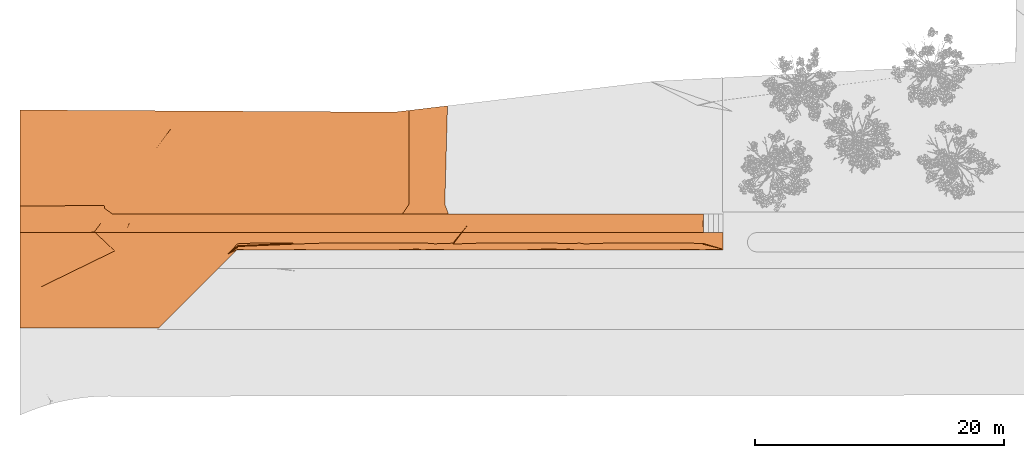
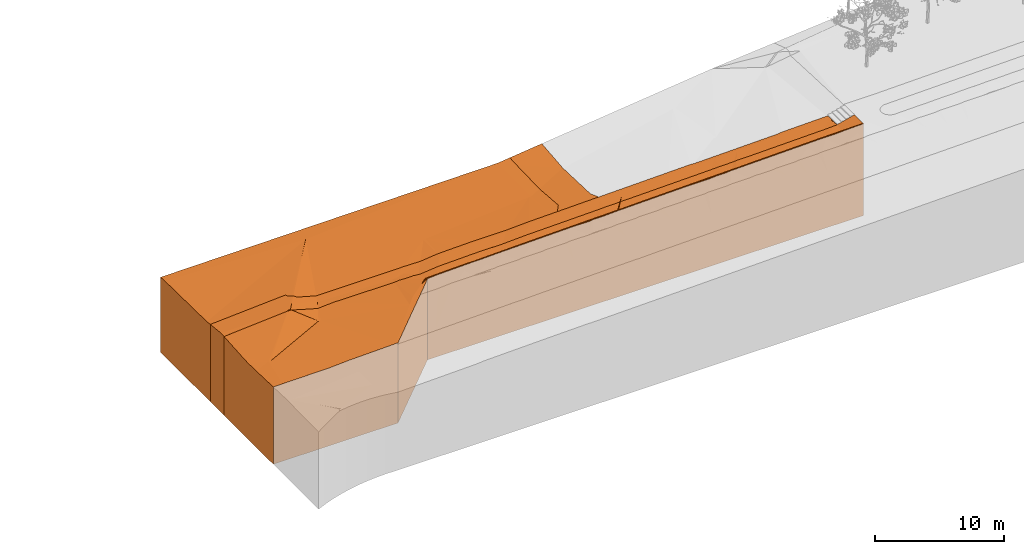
# One storey, part 208 of 246: 4 proxies.
"""IFC2X3 building model written with IfcOpenShell, lengths in millimetres."""

from ifc_helpers import new_model, entity, si_unit, converted_unit, derived_unit, money_unit, direction, frame, origin_with_axes, place, context, subcontext, project, spatial, faceted_brep, material, type_object, element, save


model = new_model("IFC2X3")

# Units and contexts
model_context = context("Model", 3, precision=0.01, world=origin_with_axes(), true_north=direction((0.0, 1.0)))
body_context = subcontext(model_context, "Body", "Model", "MODEL_VIEW")
ifc_project = project(units=[si_unit("LENGTHUNIT", "METRE", prefix="MILLI"), si_unit("AREAUNIT", "SQUARE_METRE"), si_unit("VOLUMEUNIT", "CUBIC_METRE"), converted_unit("PLANEANGLEUNIT", "DEGREE", entity("IfcPlaneAngleMeasure", 0.0174532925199), si_unit("PLANEANGLEUNIT", "RADIAN"), dimensions=[0, 0, 0, 0, 0, 0, 0]), si_unit("SOLIDANGLEUNIT", "STERADIAN"), money_unit("EUR"), converted_unit("TIMEUNIT", "Year", entity("IfcTimeMeasure", 31556926.0), si_unit("TIMEUNIT", "SECOND"), dimensions=[0, 0, 1, 0, 0, 0, 0]), si_unit("MASSUNIT", "GRAM", prefix="KILO"), si_unit("THERMODYNAMICTEMPERATUREUNIT", "DEGREE_CELSIUS"), si_unit("LUMINOUSINTENSITYUNIT", "LUMEN"), si_unit("ENERGYUNIT", "JOULE", prefix="MEGA"), derived_unit("THERMALCONDUCTANCEUNIT", [(si_unit("POWERUNIT", "WATT"), 1), (si_unit("LENGTHUNIT", "METRE"), -1), (si_unit("THERMODYNAMICTEMPERATUREUNIT", "KELVIN"), -1)]), derived_unit("SPECIFICHEATCAPACITYUNIT", [(si_unit("ENERGYUNIT", "JOULE"), 1), (si_unit("MASSUNIT", "GRAM", prefix="KILO"), -1), (si_unit("THERMODYNAMICTEMPERATUREUNIT", "KELVIN"), -1)]), derived_unit("MASSDENSITYUNIT", [(si_unit("MASSUNIT", "GRAM", prefix="KILO"), 1), (si_unit("VOLUMEUNIT", "CUBIC_METRE"), -1)])], contexts=[model_context])

# Site, building, storey
site_placement = place(None, origin_with_axes())
site = spatial("IfcSite", under=ifc_project, at=site_placement, Name="L.Koidula tn 11b", CompositionType="ELEMENT")
building_placement = place(site_placement, origin_with_axes())
building = spatial("IfcBuilding", under=site, at=building_placement, Name="Rakvere Riigigümnaasium", CompositionType="ELEMENT")
storey_placement = place(building_placement, origin_with_axes())
storey = spatial("IfcBuildingStorey", under=building, at=storey_placement, Name="1.korrus 0,00", CompositionType="ELEMENT", Elevation=0.0)

# Proxies
ifc_material_1 = material(Name="Roheala")
building_element_proxy_type_1 = type_object("IfcBuildingElementProxyType", Name="Roheala", PredefinedType="NOTDEFINED")
proxy_1_placement = place(storey_placement, frame((-84326.166976, -3413.61736413, -10000.0), z_axis=(0.0, 0.0, 1.0), x_axis=(1.0, 0.0, 0.0)))
element("IfcBuildingElementProxy", 1, at=proxy_1_placement, inside=storey, type_object=building_element_proxy_type_1, material=ifc_material_1, Name="Roheala", context=body_context, shape_type="Brep", body=[
    faceted_brep([(56500.0797185, 6317.00748216, 8700.0), (56500.0817769, 6250.04091103, 8697.94951544), (56500.0817769, 6250.04091103, 0.0), (56500.0387458, 7649.98054143, 0.0), (56500.0387458, 7649.98054143, 8700.0), (56478.1325653, 6320.76040749, 8700.0), (56458.6437579, 6250.04197288, 8697.73258207), (17466.8236033, 6251.04113707, 7697.11235292), (17429.7311562, 6251.04208756, 7695.38095773), (17429.7311562, 6251.04208756, 0.0), (55826.1157257, 6250.05818139, 8679.17993428), (54912.2976461, 6250.08159795, 8650.0), (54831.2643912, 6250.08367443, 8650.0), (54337.5972467, 6250.09632463, 8618.14781877), (54009.9535934, 6250.10472049, 8600.0), (52787.3374331, 6250.13604999, 8600.0), (50743.4104742, 6250.18842556, 8550.0), (48699.4835153, 6250.24080112, 8500.0), (46655.5565581, 6250.29317669, 8450.0), (44611.6295991, 6250.34555225, 8400.0), (44608.5002187, 6250.34563244, 8399.62782355), (44606.6054815, 6250.345681, 8399.66785781), (44596.2634037, 6250.34594601, 8399.62410116), (44120.9288745, 6250.35812644, 8350.0), (43324.1563461, 6250.37854372, 8350.0), (42567.702641, 6250.39792782, 8302.85971956), (42516.7696388, 6250.39923298, 8300.0), (40523.7756832, 6250.45030338, 8300.0), (38479.8487235, 6250.50267895, 8250.0), (36435.9217654, 6250.55505451, 8200.0), (34391.9948066, 6250.60743008, 8150.0), (34388.865498, 6250.60751027, 8149.62730361), (34376.6071446, 6250.60782439, 8149.62357603), (34373.5296047, 6250.60790325, 8149.54829105), (33360.7974687, 6250.63385448, 8100.0), (32303.8581786, 6250.66093852, 8100.0), (32300.6245355, 6250.66102138, 8099.63192416), (32288.0033239, 6250.6613448, 8099.6282996), (32284.1476479, 6250.6614436, 8099.53790733), (31969.4123126, 6250.66950868, 8050.0), (30171.1116485, 6250.71559008, 8050.0), (30167.9665271, 6250.71567067, 8049.64132503), (30155.6617386, 6250.71598598, 8049.63779311), (28038.3651183, 6250.77024164, 8000.0), (25905.6185882, 6250.82489321, 7950.0), (23772.8720572, 6250.87954477, 7900.0), (23744.4073136, 6250.88027418, 7899.33267402), (22271.577892, 6250.91801539, 7850.0), (21748.6613639, 6250.93141511, 7850.0), (19984.9458318, 6250.97661027, 7800.0), (18221.2302997, 6251.02180542, 7750.0), (18205.914837, 6251.02219788, 7749.13163646), (11179.5277611, 0.0, 0.0), (0.00700998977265, 0.155381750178, 0.0), (0.00701060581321, 7650.44658902, 0.0), (56478.1325653, 7649.98072213, 8700.0), (0.00701060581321, 7650.44658902, 7471.24544122), (5717.81441828, 7650.39942497, 7890.34617291), (5720.7397981, 7650.39940084, 7890.34616932), (5857.79912661, 7650.39827029, 7868.84178494), (6049.37965911, 7650.39669001, 7868.84102584), (6867.16398391, 7650.38994441, 7621.13628087), (8393.10873574, 7650.37735747, 7190.01175819), (8460.48670956, 7650.37680169, 7190.01174689), (9751.72676031, 7650.36615074, 7280.11628937), (15285.0023761, 7650.32050882, 7261.56624853), (15364.5959855, 7650.31985228, 7273.63875858), (15677.4722953, 7650.31727148, 7307.20652489), (15833.2881491, 7650.31598621, 7307.20677894), (16262.5508682, 7650.31244539, 7277.22311575), (16984.746884, 7650.30648826, 7296.44372275), (17491.822994, 7650.30230558, 7232.67987534), (17626.3861301, 7650.30119562, 7233.76140313), (19168.2006535, 7650.28847777, 7400.0), (20930.3955371, 7650.27394209, 7450.0), (21909.6445175, 7650.26586463, 7477.78491633), (22105.7113619, 7650.26424735, 7483.34453777), (22106.3312285, 7650.26424223, 7483.34454432), (22782.7467254, 7650.25866274, 7500.0), (24915.0392728, 7650.24107425, 7500.0), (27047.3319318, 7650.22348577, 7600.0), (29179.6245908, 7650.20589729, 7650.0), (31311.9172495, 7650.1883088, 7700.0), (33283.1128002, 7650.17204915, 7746.2224452), (33283.4443232, 7650.17204642, 7746.22244504), (33441.1173846, 7650.17074583, 7750.0), (33441.1280702, 7650.17074574, 7750.0), (34110.8625793, 7650.16522135, 7776.9448479), (34560.4068977, 7650.16151323, 7777.3801395), (35485.0892181, 7650.15388587, 7800.0), (35527.1473047, 7650.15353895, 7821.40800917), (36402.0767674, 7650.14632199, 7822.43162866), (37529.0503666, 7650.137026, 7850.0), (39573.011515, 7650.12016613, 7900.0), (41616.9726631, 7650.10330626, 7950.0), (43660.9338114, 7650.08644639, 8000.0), (44210.8561113, 7650.08191029, 8022.99835434), (44381.8062684, 7650.08050019, 8023.19120753), (44520.8384745, 7650.07935336, 8029.00567639), (44563.727156, 7650.07899959, 8029.04378938), (44986.3343059, 7650.07551366, 8032.42235049), (45704.8949594, 7650.06958652, 8050.0), (45937.958958, 7650.06766407, 8078.44772623), (46902.8684417, 7650.05970489, 8079.30519212), (47748.8561077, 7650.05272666, 8100.0), (49792.8172557, 7650.03586679, 8150.0), (51836.7784041, 7650.01900692, 8200.0), (53880.739552, 7650.00214705, 8250.0), (54912.3356767, 7649.9936378, 8300.0), (17492.6241828, 6302.11504705, 7700.0), (16694.0332782, 5916.08713761, 7650.0), (16859.9151238, 5681.14959353, 7650.0), (11318.438712, 138.929590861, 7607.10621375), (11179.5277611, 0.0, 7606.73477274), (14500.4139706, 3321.3318274, 7650.0), (54912.298042, 6264.65393075, 8650.0), (54822.0578683, 6261.34511116, 8650.0), (54010.1625335, 6306.57541558, 8600.0), (52778.1283339, 6261.40063814, 8600.0), (50734.1987994, 6261.45616418, 8550.0), (48690.2692649, 6261.51169022, 8500.0), (46646.3397306, 6261.56721812, 8450.0), (44602.410196, 6261.62274416, 8400.0), (44136.5494369, 6319.5410362, 8350.0), (43469.4826486, 6295.08181776, 8350.0), (42558.4806615, 6261.67827113, 8300.0), (42605.4926404, 6338.40197562, 8300.0), (40514.5511273, 6261.7337981, 8300.0), (38470.6215927, 6261.78932321, 8250.0), (36426.6920583, 6261.84485018, 8200.0), (34382.7625239, 6261.90037621, 8150.0), (33360.7987943, 6299.4281416, 8100.0), (33360.7797479, 6299.42813956, 8100.0), (33360.5911623, 6299.42813331, 8100.0), (32294.3433394, 6261.81304114, 8100.0), (32019.1729403, 6327.10586345, 8050.0), (30161.8398254, 6261.58285969, 8050.0), (28029.3363113, 6261.35267825, 8000.0), (25896.8327973, 6261.1224968, 7950.0), (23764.3292831, 6260.89231442, 7900.0), (22271.5744041, 6283.23118742, 7850.0), (22270.8339085, 6283.23092621, 7850.0), (21741.9641584, 6260.41663024, 7850.0), (19979.0202612, 6259.3689633, 7800.0), (18216.0763638, 6258.32129636, 7750.0), (843.32714781, 0.143660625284, 7340.76924749), (0.00700998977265, 0.155381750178, 7323.22837841), (11073.7396539, 0.00147032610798, 7603.80837747), (10936.0682161, 0.00338379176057, 7601.95352976), (10715.6700166, 0.00644705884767, 7588.85682927), (7190.69828465, 0.0554398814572, 7491.28518069), (7185.57192525, 0.0555111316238, 7491.28517686), (6915.063387, 0.0592708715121, 7487.73402215), (5025.96705524, 0.085527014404, 7379.36634196), (924.774832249, 0.142528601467, 7340.76928226), (0.00223881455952, 4628.6643594, 7236.44765782), (0.00425651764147, 2671.29401658, 7230.44220109), (0.00291754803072, 3970.22616115, 7206.20710351), (1477.36434636, 3280.74573074, 7240.0), (1677.36434636, 3280.74573074, 7240.0), (7610.41507392, 6174.73788932, 7160.0), (7810.41507392, 6174.73788932, 7160.0), (14500.0785863, 3945.91806659, 7650.0), (15219.0613136, 4741.94411421, 7650.0), (17492.3567608, 6752.11496814, 7400.0), (18568.3176449, 6798.52960016, 7400.0), (20331.2610414, 6799.57726649, 7450.0), (22094.204438, 6800.62493281, 7500.0), (22270.376203, 7050.76698901, 7500.0), (22271.4915568, 7050.76740414, 7500.0), (17492.4459015, 6602.11499506, 7500.0), (17492.4904718, 6527.11500759, 7500.0), (22270.5653725, 6733.23084691, 7500.0), (22271.5258315, 6733.23118485, 7500.0), (24190.7400937, 6800.93722494, 7500.0), (26323.2438707, 6801.16740561, 7600.0), (28455.747648, 6801.39758814, 7650.0), (30588.2514249, 6801.62776975, 7700.0), (32720.7552021, 6801.85795134, 7750.0), (33360.4578784, 7551.96433771, 7749.99999999), (33360.8328217, 7551.96432987, 7750.0), (33965.5925587, 6771.60355607, 7800.0), (34791.5326191, 6801.88815315, 7800.0), (34829.5825667, 6728.28339822, 7850.0), (36835.4621526, 6801.83262622, 7850.0), (38879.3916865, 6801.77710021, 7900.0), (40923.3212201, 6801.72157328, 7950.0), (42967.2507537, 6801.66604635, 8000.0), (44136.5616619, 6769.54103563, 8050.0), (44506.272442, 6783.0971549, 8050.0), (45172.2790619, 6998.64500901, 8050.0), (45011.1802874, 6801.61052035, 8050.0), (45370.2624504, 6739.77699703, 8100.0), (47055.1098211, 6801.55499435, 8100.0), (49099.0393548, 6801.49946741, 8150.0), (51142.9688885, 6801.44394048, 8200.0), (53186.8984222, 6801.38841447, 8250.0), (17492.5796126, 6377.11503545, 7650.0), (17492.5350422, 6452.11502106, 7600.0), (54912.3102668, 6714.65393205, 8350.0), (54912.3082293, 6639.65393199, 8400.0), (54912.3061917, 6564.65393193, 8450.0), (54912.3041543, 6489.65393187, 8500.0), (54912.3021168, 6414.65393181, 8550.0), (54912.3000794, 6339.65393081, 8600.0), (48826.2224835, 6566.49636464, 8300.0), (33360.8008318, 6374.42813979, 8049.99999999), (33360.583254, 6374.42813256, 8050.0), (33360.5753457, 6449.42813274, 8000.0), (33360.5674375, 6524.42813199, 7950.0), (33360.5595293, 6599.42813123, 7900.0), (33360.551621, 6674.42813049, 7850.0), (22271.5663088, 6358.23118745, 7800.0), (22270.7891526, 6358.23091252, 7800.0), (22270.7443967, 6433.2309007, 7750.0), (22270.6996406, 6508.23088702, 7700.0), (17492.4013311, 6677.1149816, 7450.0), (22270.6101286, 6658.23086059, 7600.0), (22271.5339271, 6658.23118574, 7600.0), (22271.5420224, 6583.2311857, 7650.0), (22271.5501179, 6508.23118566, 7700.0), (22271.5582133, 6433.23118656, 7750.0), (33360.5437129, 6749.42813066, 7800.0), (33360.5634155, 6749.42813035, 7800.0), (33360.8110196, 6749.42814101, 7800.0), (33360.8089821, 6674.42814002, 7850.0), (33360.8069445, 6599.42813997, 7900.0), (33360.804907, 6524.4281399, 7950.0), (33360.8028693, 6449.42813986, 8000.0), (54912.3123043, 6789.65393118, 8250.0), (22270.6548846, 6583.23087334, 7650.0)], [[[0, 1, 2, 3, 4]], [[1, 0, 5, 6]], [[7, 8, 9, 2, 1, 6, 10, 11, 12, 13, 14, 15, 16, 17, 18, 19, 20, 21, 22, 23, 24, 25, 26, 27, 28, 29, 30, 31, 32, 33, 34, 35, 36, 37, 38, 39, 40, 41, 42, 43, 44, 45, 46, 47, 48, 49, 50, 51]], [[52, 53, 54, 3, 2, 9]], [[55, 4, 3, 54, 56, 57, 58, 59, 60, 61, 62, 63, 64, 65, 66, 67, 68, 69, 70, 71, 72, 73, 74, 75, 76, 77, 78, 79, 80, 81, 82, 83, 84, 85, 86, 87, 88, 89, 90, 91, 92, 93, 94, 95, 96, 97, 98, 99, 100, 101, 102, 103, 104, 105, 106, 107, 108]], [[0, 4, 55, 5]], [[10, 6, 5]], [[8, 7, 109, 110, 111]], [[112, 113, 52, 9, 8, 111, 114]], [[11, 10, 5, 115]], [[12, 11, 115, 116]], [[13, 12, 116, 117]], [[14, 13, 117]], [[15, 14, 117, 118]], [[16, 15, 118, 119]], [[17, 16, 119, 120]], [[18, 17, 120, 121]], [[19, 18, 121, 122]], [[20, 19, 122]], [[21, 20, 122]], [[22, 21, 122]], [[23, 22, 122, 123]], [[24, 23, 123, 124]], [[25, 24, 124, 125]], [[26, 25, 125]], [[27, 26, 125, 126, 127]], [[28, 27, 127, 128]], [[29, 28, 128, 129]], [[30, 29, 129, 130]], [[31, 30, 130]], [[32, 31, 130]], [[33, 32, 130]], [[34, 33, 130, 131]], [[35, 34, 131, 132, 133, 134]], [[36, 35, 134]], [[37, 36, 134]], [[38, 37, 134]], [[39, 38, 134, 135]], [[40, 39, 135, 136]], [[41, 40, 136]], [[42, 41, 136]], [[43, 42, 136, 137]], [[44, 43, 137, 138]], [[45, 44, 138, 139]], [[46, 45, 139]], [[47, 46, 139, 140]], [[48, 47, 140, 141, 142]], [[49, 48, 142, 143]], [[50, 49, 143, 144]], [[51, 50, 144]], [[7, 51, 144, 109]], [[145, 146, 53, 52, 113, 147, 148, 149, 150, 151, 152, 153, 154]], [[155, 56, 54, 53, 146, 156, 157]], [[57, 56, 155, 158]], [[58, 57, 158, 159]], [[59, 58, 159, 160]], [[60, 59, 160]], [[61, 60, 160]], [[62, 61, 160]], [[63, 62, 160, 161]], [[64, 63, 161, 162]], [[65, 64, 162]], [[66, 65, 162, 163]], [[67, 66, 163, 110]], [[68, 67, 110]], [[69, 68, 110, 164]], [[70, 69, 164]], [[71, 70, 164]], [[72, 71, 164, 165]], [[73, 72, 165]], [[74, 73, 165, 166]], [[75, 74, 166, 167, 168]], [[76, 75, 168]], [[77, 76, 168, 169]], [[78, 77, 169]], [[79, 78, 169, 168, 167, 170, 171, 172, 173, 174]], [[80, 79, 174, 175]], [[81, 80, 175, 176]], [[82, 81, 176, 177]], [[83, 82, 177, 178, 179]], [[84, 83, 179, 180]], [[85, 84, 180]], [[86, 85, 180]], [[87, 86, 180, 181]], [[88, 87, 181, 182]], [[89, 88, 182]], [[90, 89, 182, 183]], [[91, 90, 183, 184]], [[92, 91, 184]], [[93, 92, 184, 185]], [[94, 93, 185, 186]], [[95, 94, 186, 187]], [[96, 95, 187, 188]], [[97, 96, 188, 189]], [[98, 97, 189]], [[99, 98, 189]], [[100, 99, 189, 190]], [[101, 100, 190]], [[102, 101, 190, 191, 192]], [[103, 102, 192, 193]], [[104, 103, 193]], [[105, 104, 193, 194]], [[106, 105, 194, 195]], [[107, 106, 195, 196]], [[108, 107, 196]], [[55, 108, 5]], [[109, 197, 198, 110]], [[114, 111, 110, 163, 162]], [[113, 112, 147]], [[112, 114, 162, 148, 147]], [[5, 199, 200, 201, 202, 203, 204, 115]], [[115, 204, 117, 116]], [[118, 117, 204, 203, 119]], [[203, 202, 120, 119]], [[202, 201, 121, 120]], [[201, 200, 122, 121]], [[200, 199, 123, 122]], [[196, 205, 126, 124, 123, 199]], [[125, 124, 126]], [[205, 196, 128, 127, 126]], [[128, 196, 195, 129]], [[129, 195, 194, 130]], [[194, 193, 192, 131, 130]], [[131, 206, 132]], [[132, 206, 207, 133]], [[133, 207, 135, 134]], [[207, 208, 137, 136, 135]], [[208, 209, 138, 137]], [[139, 138, 209, 210]], [[210, 211, 140, 139]], [[141, 140, 212, 213]], [[143, 142, 141, 213]], [[213, 214, 144, 143]], [[214, 215, 109, 144]], [[146, 145, 158, 156]], [[149, 148, 162, 161]], [[150, 149, 161]], [[151, 150, 161, 160]], [[152, 151, 160, 159]], [[153, 152, 159]], [[154, 153, 159]], [[145, 154, 159, 158]], [[157, 156, 158]], [[155, 157, 158]], [[170, 216, 164, 110]], [[165, 164, 216, 166]], [[167, 166, 216, 170]], [[110, 171, 170]], [[172, 171, 198, 217]], [[217, 218, 173, 172]], [[175, 174, 173, 218]], [[219, 176, 175, 218]], [[177, 176, 219, 220]], [[177, 220, 221, 178]], [[222, 179, 178]], [[179, 222, 223, 224, 180]], [[181, 180, 224]], [[183, 182, 181, 224, 225]], [[185, 184, 183, 225, 226]], [[227, 186, 185, 226]], [[186, 227, 228, 187]], [[206, 188, 187, 228]], [[131, 192, 191, 189, 188, 206]], [[189, 191, 190]], [[229, 108, 196]], [[5, 108, 229]], [[230, 197, 109, 215]], [[230, 217, 198, 197]], [[198, 171, 110]], [[229, 199, 5]], [[229, 196, 199]], [[206, 228, 208, 207]], [[228, 227, 209, 208]], [[227, 226, 210, 209]], [[226, 225, 211, 210]], [[140, 211, 222, 212]], [[221, 214, 213, 212]], [[220, 215, 214, 221]], [[219, 218, 217, 230]], [[219, 230, 215, 220]], [[178, 221, 212, 222]], [[223, 222, 211]], [[224, 223, 211, 225]]]),
])
proxy_2_placement = place(storey_placement, frame((-84326.159966, 5737.16200824, -10000.0), z_axis=(0.0, 0.0, 1.0), x_axis=(1.0, 0.0, 0.0)))
element("IfcBuildingElementProxy", 2, at=proxy_2_placement, inside=storey, type_object=building_element_proxy_type_1, material=ifc_material_1, Name="Roheala", context=body_context, shape_type="Brep", body=[
    faceted_brep([(30099.5199183, 8185.55658827, 7490.0), (31289.0538753, 8326.57158374, 7503.84308099), (31289.0538753, 8326.57158374, 0.0), (30099.5199183, 8185.55658827, 0.0), (31289.0538753, 8148.72213154, 7493.0785602), (31289.0538753, 1441.18446684, 7520.27662931), (31289.0538753, 797.618075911, 7577.65729172), (31289.0538753, 797.618075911, 0.0), (31289.0538753, 7389.6677216, 7448.95429719), (31289.0538753, 7351.28488175, 7446.97481148), (31289.0538753, 3734.67444656, 7340.0), (30742.2644411, 0.0, 0.0), (7415.32394257, 0.43126536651, 0.0), (6798.37308298, 453.500476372, 0.0), (6765.65472698, 671.395526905, 0.0), (0.0, 643.463565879, 0.0), (0.0, 8357.04332302, 0.0), (0.0, 8357.04332302, 7113.52814386), (30238.1770867, 3186.65604916, 7340.0), (30207.11742, 0.0098937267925, 7623.39422953), (30742.2644411, 0.0, 7635.94764727), (9121.63670161, 0.399719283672, 7220.53527), (7415.32394257, 0.43126536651, 7702.62126166), (30189.9523917, 0.0102110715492, 7623.39420131), (28240.6098001, 0.0462502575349, 7577.66707704), (26291.568703, 0.0822838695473, 7486.24535242), (25286.4380035, 0.100866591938, 7481.59672105), (23398.8912045, 0.135763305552, 7481.58207191), (21601.4117114, 0.16899486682, 7437.31910193), (20041.7949274, 0.197828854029, 7393.06115517), (20018.6654531, 0.198256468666, 7393.06114533), (18460.2674188, 0.227067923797, 7225.08179356), (16951.2017229, 0.254967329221, 7249.56771279), (15172.7669321, 0.287846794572, 7229.23955169), (14972.765406, 0.291544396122, 7229.2396222), (7074.35603671, 250.827318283, 7790.19634812), (6798.37308298, 453.500476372, 7751.0081166), (7177.44165226, 175.124500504, 7795.12562006), (6765.65472698, 671.395526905, 7724.77993792), (0.0, 643.463565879, 7320.31609889), (0.0, 7662.16354499, 7159.49110818), (0.0, 1181.575191, 7260.41080127), (12142.522673, 6857.70073783, 7360.0), (30038.1770867, 3186.65604916, 7340.0), (20264.0722967, 2306.19103711, 7340.0), (20064.0722967, 2306.19103711, 7340.0), (12342.522673, 6857.70073783, 7360.0)], [[[0, 1, 2, 3]], [[4, 1, 0]], [[5, 6, 7, 2, 1, 4, 8, 9, 10]], [[7, 11, 12, 13, 14, 15, 16, 3, 2]], [[17, 0, 3, 16]], [[8, 4, 0]], [[6, 5, 18, 19, 20]], [[6, 20, 11, 7]], [[9, 8, 0]], [[10, 9, 0, 18]], [[5, 10, 18]], [[21, 22, 12, 11, 20, 19, 23, 24, 25, 26, 27, 28, 29, 30, 31, 32, 33, 34]], [[35, 36, 13, 12, 22, 37]], [[36, 38, 14, 13]], [[38, 39, 15, 14]], [[40, 17, 16, 15, 39, 41]], [[0, 17, 40, 42]], [[23, 19, 18, 43]], [[0, 43, 18]], [[22, 21, 42, 37]], [[24, 23, 43]], [[25, 24, 43]], [[26, 25, 43, 44]], [[27, 26, 44]], [[28, 27, 44]], [[29, 28, 44]], [[30, 29, 44, 45]], [[31, 30, 45]], [[32, 31, 45]], [[33, 32, 45, 46]], [[34, 33, 46, 42]], [[21, 34, 42]], [[36, 35, 42, 41, 39, 38]], [[35, 37, 42]], [[40, 41, 42]], [[46, 0, 42]], [[43, 0, 44]], [[45, 44, 46]], [[0, 46, 44]]]),
])
ifc_material_2 = material(Name="Kruus")
building_element_proxy_type_2 = type_object("IfcBuildingElementProxyType", Name="Kruus", PredefinedType="NOTDEFINED")
proxy_3_placement = place(storey_placement, frame((-84326.159966, 4236.37587497, -10000.0), z_axis=(0.0, 0.0, 1.0), x_axis=(1.0, 0.0, 0.0)))
element("IfcBuildingElementProxy", 3, at=proxy_3_placement, inside=storey, type_object=building_element_proxy_type_2, material=ifc_material_2, Name="Olemasolevad kõnniteed", context=body_context, shape_type="Brep", body=[
    faceted_brep([(54848.7200477, 1500.00307866, 8232.80900219), (54903.0653937, 1500.00158451, 8232.80901343), (54960.7086922, 1499.99999969, 8250.72537998), (54960.7086922, 1499.99999969, 0.0), (34445.2895858, 1500.58561558, 0.0), (34445.2895858, 1500.58561558, 7728.5380623), (40228.3179295, 1500.40504557, 7870.00817842), (40741.9779635, 1500.39092322, 7886.19913426), (42709.6694294, 1500.33682438, 7934.33418619), (42966.5719623, 1500.32976121, 7903.82931352), (46652.8582764, 1500.22841208, 7994.00598925), (46672.5053244, 1500.22787191, 7994.00609054), (50358.7955266, 1500.12652267, 8084.18286317), (50896.0045354, 1500.11175288, 8136.11490316), (54862.9958848, 1201.38214181, 8250.0), (54912.361304, 1201.38079846, 8250.0), (54960.7076815, 1377.46474865, 8256.5935854), (54960.706082, 1183.55274205, 8264.32576908), (54960.7025064, 750.079664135, 8264.32819904), (54960.6965638, 29.6446706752, 8312.3561617), (54960.6963193, 0.0, 8312.36183391), (54960.6963193, 0.0, 0.0), (54960.7062287, 1201.3396539, 8263.89431141), (9054.16779072, 0.0, 0.0), (9054.16779072, 0.378665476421, 0.0), (0.0, 0.378665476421, 0.0), (0.0, 2144.24969915, 0.0), (6765.65472698, 2172.18166018, 0.0), (6798.37308298, 1954.28660964, 0.0), (7415.32394257, 1501.21739864, 0.0), (34424.928549, 1500.58609149, 7728.03998234), (7415.32394257, 1501.21739864, 7702.62126166), (9121.63302921, 1501.17751634, 7220.53510046), (14972.780645, 1501.04075494, 7229.23891814), (15172.7825744, 1501.03608021, 7229.238829), (16951.1388337, 1500.99451392, 7249.5658858), (18460.2298895, 1500.95924128, 7225.07910446), (20018.6642406, 1500.92281532, 7393.06256217), (20041.7889813, 1500.92227482, 7393.0625746), (21601.4519054, 1500.88582014, 7437.32202688), (23398.9973606, 1500.84380534, 7481.58686638), (25286.6281641, 1500.79968493, 7481.60208229), (26291.4602771, 1500.77619855, 7486.24958472), (28240.5524075, 1500.73064158, 7577.67466526), (30189.9576912, 1500.68507729, 7623.40409649), (30207.1163347, 1500.68467623, 7623.40413216), (32156.8204024, 1500.63910496, 7669.14091694), (32439.0453213, 1500.63250839, 7680.71004805), (34414.2163373, 1500.58634187, 7728.03996393), (34423.7005481, 1201.93740648, 7750.0), (36467.6300819, 1201.88187954, 7800.0), (38511.5596156, 1201.82635354, 7850.0), (40555.4891492, 1201.77082661, 7900.0), (42599.4186828, 1201.71530061, 7950.0), (44643.3482164, 1201.65977368, 8000.0), (46687.2777501, 1201.60424768, 8050.0), (48731.2072838, 1201.54871981, 8100.0), (50775.1368175, 1201.49319381, 8150.0), (52819.0663512, 1201.43766781, 8200.0), (54912.3490437, 750.079664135, 8250.0), (54853.903103, 1190.26106594, 8250.0), (54912.3286667, 0.000398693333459, 8300.0), (15677.6552247, 0.0, 7307.27057417), (15364.5726318, 0.0, 7273.68102428), (15284.9260211, 0.0, 7261.60056516), (9752.19774747, 0.0, 7280.15352405), (9054.16779072, 0.0, 7231.44407416), (53880.7252588, 0.0, 8250.0), (51836.7503259, 0.0, 8200.0), (49792.7753926, 0.0, 8150.0), (47748.8004596, 0.0, 8100.0), (46902.8733572, 0.0, 8079.3068132), (45937.9055334, 0.0, 8078.44948833), (45704.8255264, 0.0, 8050.0), (44986.3507805, 0.0, 8032.42457052), (44563.7144627, 0.0, 8029.04586234), (44520.8300178, 0.0, 8029.00776169), (44381.8117858, 0.0, 8023.19390581), (44210.8416198, 0.0, 8023.00107342), (43660.8505935, 0.0, 8000.0), (41616.8756603, 0.0, 7950.0), (39572.9007273, 0.0, 7900.0), (37528.925794, 0.0, 7850.0), (36402.1479642, 0.0, 7822.43660352), (35527.0189984, 0.0, 7821.4129809), (35484.9508606, 0.0, 7800.0), (34560.4457367, 0.0, 7777.38462666), (34110.827132, 0.0, 7776.94936105), (33440.9652613, 0.0, 7750.0), (33283.5782149, 0.0, 7746.22932286), (33283.246615, 0.0, 7746.22932312), (31311.743881, 0.0, 7700.0), (29179.4362226, 0.0, 7650.0), (27047.1285639, 0.0, 7600.0), (24914.8209052, 0.0, 7500.0), (22782.5133581, 0.0, 7500.0), (22106.3988794, 0.0, 7483.35207343), (22105.7787902, 0.0, 7483.35206702), (21909.8015523, 0.0, 7477.79501877), (20930.1908317, 0.0, 7450.0), (19167.9857106, 0.0, 7400.0), (17626.7196738, 0.0, 7233.8215064), (17491.8161677, 0.0, 7232.73745024), (16984.9169057, 0.0, 7296.47983856), (16262.9809133, 0.0, 7277.26674887), (15833.4413273, 0.0, 7307.27057417), (9054.16779072, 0.378665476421, 7231.44013489), (6049.39886855, 0.378665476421, 7868.82912002), (5857.8234307, 0.378665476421, 7868.82912002), (5720.70734497, 0.378665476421, 7890.34207699), (5717.78070163, 0.378665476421, 7890.34207699), (0.0, 0.378665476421, 7471.23963807), (8460.47754221, 0.378665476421, 7190.01164729), (8393.09883348, 0.378665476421, 7190.01164729), (6867.16606016, 0.378665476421, 7621.13064348), (0.0, 750.079664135, 7475.52213233), (0.0, 2144.24969915, 7320.31609889), (0.0, 464.561752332, 7507.30742498), (6765.65472698, 2172.18166018, 7724.77993792), (6798.37308298, 1954.28660964, 7751.0081166), (7177.44165226, 1675.91063378, 7795.12562006), (7074.35603671, 1751.61345155, 7790.19634812), (6489.55937266, 750.079664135, 7855.40967226), (8790.74760378, 750.079664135, 7205.25916917), (15389.1973699, 492.102601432, 7210.0), (15589.1973699, 492.102601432, 7210.0), (16561.0119396, 750.079664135, 7210.0), (18249.7850694, 1198.37993168, 7210.0), (20012.7275585, 1199.42759775, 7400.0), (21775.6700477, 1200.47526475, 7450.0), (23806.6890877, 1200.93504346, 7500.0), (25939.1932116, 1201.16522391, 7500.0), (28071.6973356, 1201.39540621, 7600.0), (30204.2014596, 1201.62558758, 7650.0), (32336.7055835, 1201.85576989, 7700.0), (34280.6344799, 1026.95811403, 7750.0), (36049.4359401, 690.402701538, 7800.0), (44274.1285804, 750.079664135, 8000.0), (54494.0032458, 750.079664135, 8250.0), (54866.4397039, 750.079664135, 8260.73298843), (44533.4319891, 750.079664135, 8010.8442801), (32692.5091931, 750.079664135, 7717.37754571), (21899.7532464, 750.079664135, 7462.51306677), (21458.4620878, 750.079664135, 7450.0), (17491.7436331, 122.056387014, 7210.0), (5980.75322618, 65.2699199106, 7900.0), (5780.75322618, 65.2699199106, 7900.0)], [[[0, 1, 2, 3, 4, 5, 6, 7, 8, 9, 10, 11, 12, 13]], [[1, 0, 14, 15]], [[16, 2, 1, 15]], [[17, 18, 19, 20, 21, 3, 2, 16, 22]], [[3, 21, 23, 24, 25, 26, 27, 28, 29, 4]], [[30, 5, 4, 29, 31, 32, 33, 34, 35, 36, 37, 38, 39, 40, 41, 42, 43, 44, 45, 46, 47, 48]], [[6, 5, 30, 49, 50, 51, 52]], [[7, 6, 52]], [[8, 7, 52, 53]], [[9, 8, 53]], [[10, 9, 53, 54, 55]], [[11, 10, 55]], [[12, 11, 55, 56, 57]], [[13, 12, 57]], [[0, 13, 57, 58, 14]], [[59, 15, 14, 60]], [[22, 16, 15]], [[18, 17, 15, 59]], [[18, 59, 61, 19]], [[20, 19, 61]], [[62, 63, 64, 65, 66, 23, 21, 20, 61, 67, 68, 69, 70, 71, 72, 73, 74, 75, 76, 77, 78, 79, 80, 81, 82, 83, 84, 85, 86, 87, 88, 89, 90, 91, 92, 93, 94, 95, 96, 97, 98, 99, 100, 101, 102, 103, 104, 105]], [[17, 22, 15]], [[106, 24, 23, 66]], [[107, 108, 109, 110, 111, 25, 24, 106, 112, 113, 114]], [[115, 116, 26, 25, 111, 117]], [[116, 118, 27, 26]], [[118, 119, 28, 27]], [[120, 31, 29, 28, 119, 121]], [[32, 31, 120, 122, 123]], [[33, 32, 123, 124]], [[34, 33, 124, 125]], [[35, 34, 125]], [[126, 127, 36, 35, 125]], [[37, 36, 127, 128]], [[38, 37, 128]], [[39, 38, 128, 129]], [[40, 39, 129, 130]], [[41, 40, 130, 131]], [[42, 41, 131]], [[43, 42, 131, 132]], [[44, 43, 132, 133]], [[45, 44, 133]], [[46, 45, 133, 134]], [[47, 46, 134]], [[48, 47, 134, 49]], [[30, 48, 49]], [[50, 49, 135, 86, 85, 136]], [[51, 50, 136, 83, 82]], [[52, 51, 82, 81]], [[53, 52, 81, 80]], [[137, 54, 53, 80, 79]], [[55, 54, 74, 73]], [[56, 55, 71, 70]], [[57, 56, 70, 69]], [[58, 57, 69, 68]], [[138, 60, 14, 58, 68, 67]], [[139, 59, 60]], [[59, 139, 61]], [[63, 62, 124]], [[64, 63, 124]], [[64, 124, 123, 65]], [[123, 112, 106, 66, 65]], [[67, 61, 138]], [[55, 72, 71]], [[55, 73, 72]], [[54, 75, 74]], [[54, 140, 76, 75]], [[140, 137, 77, 76]], [[78, 77, 137]], [[79, 78, 137]], [[84, 83, 136]], [[85, 84, 136]], [[135, 87, 86]], [[135, 88, 87]], [[135, 49, 134, 141, 89, 88]], [[90, 89, 141]], [[141, 134, 91, 90]], [[134, 133, 92, 91]], [[133, 132, 93, 92]], [[132, 131, 94, 93]], [[131, 130, 95, 94]], [[130, 129, 142, 96, 95]], [[97, 96, 142]], [[142, 129, 143, 98, 97]], [[99, 98, 143]], [[143, 129, 128, 100, 99]], [[128, 127, 144, 101, 100]], [[102, 101, 144]], [[102, 144, 126, 103]], [[103, 126, 125, 104]], [[105, 104, 125]], [[105, 125, 124, 62]], [[107, 145, 146, 108]], [[109, 108, 146]], [[110, 109, 146]], [[110, 146, 117, 111]], [[113, 112, 123]], [[123, 122, 114, 113]], [[114, 122, 145, 107]], [[121, 119, 118, 116, 115, 117, 146]], [[122, 120, 121, 146, 145]], [[127, 126, 144]], [[137, 140, 54]], [[138, 139, 60]], [[139, 138, 61]]]),
])
proxy_4_placement = place(storey_placement, frame((-53583.895525, 5736.94761227, -10000.0), z_axis=(0.0, 0.0, 1.0), x_axis=(1.0, 0.0, 0.0)))
element("IfcBuildingElementProxy", 4, at=proxy_4_placement, inside=storey, type_object=building_element_proxy_type_2, material=ifc_material_2, Name="Olemasolevad kõnniteed", context=body_context, shape_type="Brep", body=[
    faceted_brep([(3669.1106432, 89.4830084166, 7721.4612384), (3682.88256469, 53.1428319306, 7724.1333778), (3703.02222771, 0.0, 7728.53901283), (3703.02222771, 0.0, 0.0), (3407.22497645, 780.524658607, 0.0), (3407.22497645, 780.524658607, 7664.89892207), (3671.95230293, 0.0017988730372, 7728.04090555), (3682.66405377, 0.00117868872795, 7728.04095115), (1414.51674845, 0.132498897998, 7669.13419002), (0.0, 0.214395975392, 7635.94764727), (0.0, 0.214395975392, 0.0), (1696.79985092, 0.116155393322, 7680.70647227), (546.789434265, 797.832471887, 0.0), (546.789434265, 8326.78597971, 0.0), (3622.45608097, 8691.39525631, 0.0), (3517.93741444, 4849.78673118, 7371.43005104), (3622.45608071, 8691.39525854, 7539.6358402), (3605.12082843, 8054.23391334, 7500.99364094), (3532.69175188, 5392.08592399, 7345.92364521), (3529.56671946, 5277.22461206, 7340.0), (3504.363246, 5277.22461206, 7340.0), (546.789434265, 1441.39886282, 7520.27662931), (546.789434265, 797.832471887, 7577.65729172), (546.789434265, 3734.88884254, 7340.0), (546.789434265, 8148.93652752, 7493.0785602), (546.789434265, 8326.78597971, 7503.84308099), (546.789434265, 7351.49927772, 7446.97481148), (546.789434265, 7389.88211757, 7448.95429719)], [[[0, 1, 2, 3, 4, 5]], [[1, 0, 6, 7]], [[7, 2, 1]], [[8, 9, 10, 3, 2, 7, 6, 11]], [[3, 10, 12, 13, 14, 4]], [[15, 5, 4, 14, 16, 17, 18, 19]], [[11, 6, 0, 5, 15, 20]], [[9, 8, 21, 22]], [[9, 22, 12, 10]], [[8, 11, 20, 23, 21]], [[24, 25, 13, 12, 22, 21, 23, 26, 27]], [[25, 16, 14, 13]], [[17, 16, 25, 24]], [[18, 17, 24, 27]], [[19, 18, 27, 26, 20]], [[15, 19, 20]], [[26, 23, 20]]]),
])

save(model, "model.ifc")
